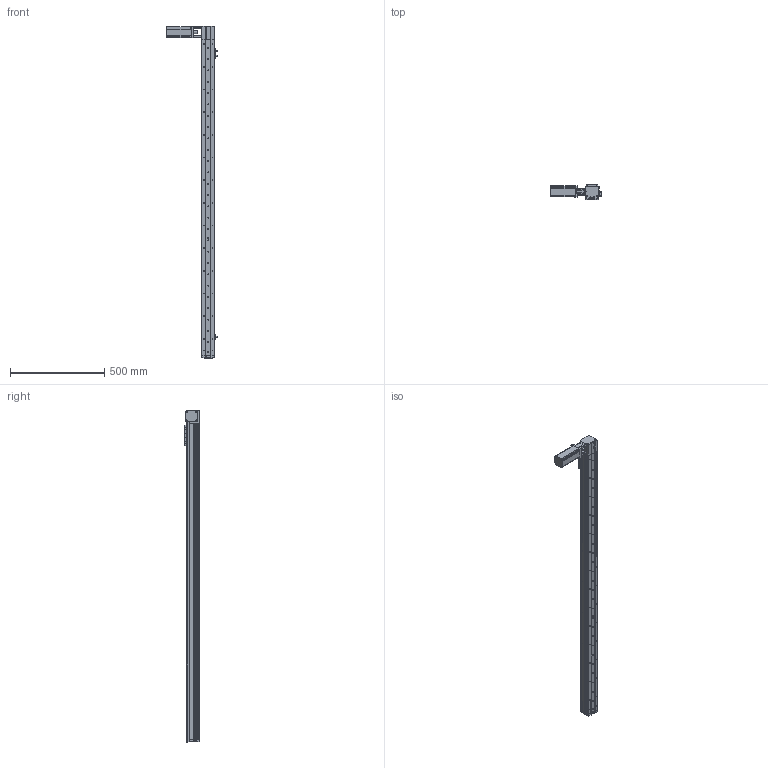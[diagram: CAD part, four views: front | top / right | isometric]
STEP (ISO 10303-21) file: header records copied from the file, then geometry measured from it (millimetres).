
FILE_DESCRIPTION (( 'STEP AP214' ), '1' );
FILE_NAME ('KSD68BS-S1500-MLT-CR.STEP', '2019-08-28T03:52:38', ( '微软用户' ), ( '微软中国' ), 'SwSTEP 2.0', 'SolidWorks 2014', '' );
FILE_SCHEMA (( 'AUTOMOTIVE_DESIGN' ));
Length unit declared in the file: millimetre
Products named in the file (13): 68遵裔啣揤啣1; 68宽单导轨全封闭丝杆传动安装板1防护罩; KSD68BS 1500行程侧板全封闭; 68宽单导轨全封闭同步带端板; 68单导轨全封闭同步带电机座右; 68单导轨全封闭同步带安装板; 感应片68宽全封闭; U倰嫖萇EEㄜSX672; 台达ECMA－C20604AS伺服电机（400W); KSD68BS 1500行程底板全封闭; KSD68BS-S1500-MLT-CR; 100遵鎮湛假蚾啣1; KSD68BS 1500行程盖板全封闭
Assembly tree (16 placements, depth 2):
  KSD68BS-S1500-MLT-CR
    KSD68BS 1500行程底板全封闭
    台达ECMA－C20604AS伺服电机（400W)
    U倰嫖萇EEㄜSX672  x3
    感应片68宽全封闭
    68单导轨全封闭同步带安装板
    68单导轨全封闭同步带电机座右
    68宽单导轨全封闭同步带端板
    KSD68BS 1500行程侧板全封闭  x2
    68宽单导轨全封闭丝杆传动安装板1防护罩
    68遵裔啣揤啣1  x2
    KSD68BS 1500行程盖板全封闭
    100遵鎮湛假蚾啣1
Bounding box: 266.4 x 77 x 1758.1 mm (x, y, z)
Volume: 3159304.3 mm3; surface area: 1251769.9 mm2
Topology: 17 solids, 17 shells, 1544 faces, 4452 edges, 2831 vertices
Faces by surface type: cylinder 752, plane 604, cone 188
Entity records: 50301 total; most frequent: CARTESIAN_POINT 8707, DIRECTION 7428, ORIENTED_EDGE 7108, EDGE_CURVE 3554, AXIS2_PLACEMENT_3D 2710, VERTEX_POINT 2329, VECTOR 2008, LINE 2008
